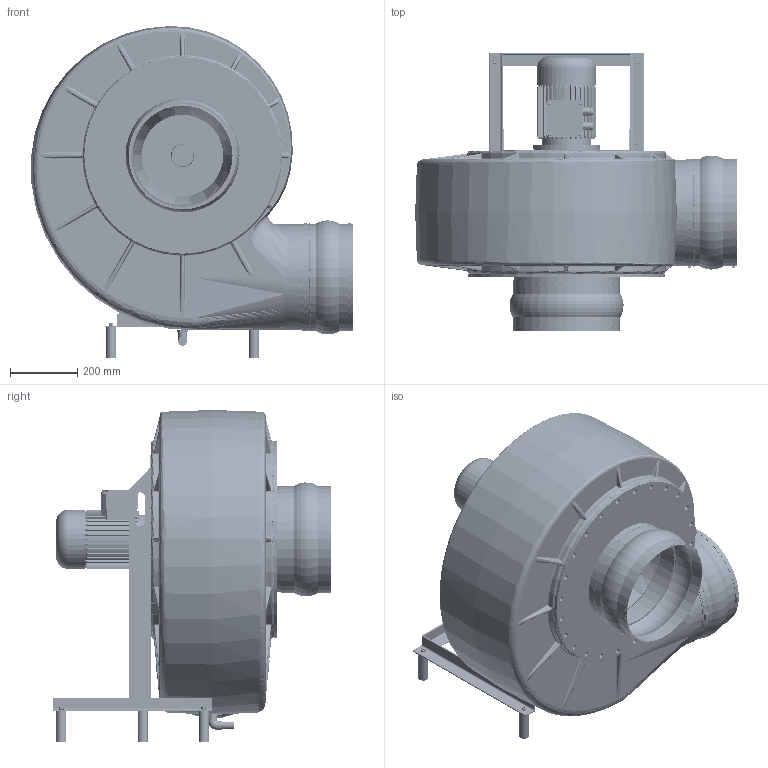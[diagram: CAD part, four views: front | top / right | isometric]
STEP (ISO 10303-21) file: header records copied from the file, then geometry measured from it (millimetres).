
FILE_DESCRIPTION( ( 'Unknown' ), '1' );
FILE_NAME( 'K:/HOME/HLT_CAD/Z/HF/3D/Zusammenstellung/HFR/HFR 15_17/HFR...-15D/DS_1/HFR_315-15D/GR270/HFR_315-15D_DS1_GR_270_090.stp', 'Unknown', ( 'Unknown' ), ( 'Unknown' ), 'PSStep 14.0', 'Unknown', ' ' );
FILE_SCHEMA( ( 'AUTOMOTIVE_DESIGN { 1 0 10303 214 1 1 1 1 }' ) );
Length unit declared in the file: millimetre
Products named in the file (33): HFR 315_GR; Ensat-Buchse-M8; 5217_Laufradbefestigung; 5217_Drehteil; 5217_Flachdichtung_Ø32; 5217_Schraubkappe; 5217_Flachdichtung_Ø63; 5158_Gehäusedeckel_315; 5158_Rohr; GD_FL 315; 315; 5158_Rohr_250; 5159_Kondensatablauf_125-315; Winkel_90°_G1_2; Stopfen_G1_2-oa5; Rohr_20; Verschlusskappe_20; 6203_Kugelmanschette; 6203_Manschettenband_HFR315; 6203_Schelle_HFR315; 5326_Gestell_HFR_315_15_D_DS1-oa4; 360-oa0; Angle 40x40x4-oa1; Angle 40x40x4-oa2; Angle 40x40x4-oa3; Assem1; Laufrad 315_GR; 6611_Motorring_Bg80; Schwidä_30x30; 6kant_M8; Adapter_250-315_270\X2\00B\X0\; B5_90L_2HIHI
Assembly tree (99 placements, depth 3):
  Assem1
    Laufrad 315_GR
    6611_Motorring_Bg80
    Schwidä_30x30  x4
    6kant_M8  x4
    Adapter_250-315_270\X2\00B\X0\  x4
    B5_90L_2HIHI
    5326_Gestell_HFR_315_15_D_DS1-oa4
      360-oa0
      Angle 40x40x4-oa1
      Angle 40x40x4-oa2
      Angle 40x40x4-oa3
    HFR 315_GR
      HFR 315_GR
      Ensat-Buchse-M8  x56
    5158_Gehäusedeckel_315
      5158_Rohr
      GD_FL 315
      315  x2
      5158_Rohr_250
    5159_Kondensatablauf_125-315
      Winkel_90°_G1_2
      Stopfen_G1_2-oa5
      Rohr_20
      Verschlusskappe_20
    6203_Kugelmanschette  x2
      6203_Manschettenband_HFR315
      6203_Schelle_HFR315
    5217_Laufradbefestigung
      5217_Drehteil
      5217_Flachdichtung_Ø32
      5217_Schraubkappe
      5217_Flachdichtung_Ø63
Bounding box: 955.86 x 827 x 986.81 mm (x, y, z)
Volume: 15721380.4 mm3; surface area: 7910213.6 mm2
Topology: 94 solids, 96 shells, 3341 faces, 7017 edges, 4375 vertices
Faces by surface type: plane 1417, cylinder 1113, bspline 362, torus 223, cone 134, sphere 48, offset 36, revolution 8
Full cylindrical faces by diameter (mm): 6.647 x65, 8 x14, 9 x2, 10 x4, 10.5 x1, 11 x8, 12 x229, 13 x233, 14 x4, 15 x28, 16 x6, 17 x49, 20 x4, 20.955 x1, 22.212 x1, 23 x1, 24 x5, 25 x1, 26.5 x2, 28.8 x1, 30 x8, 30.291 x1, 32 x1, 33.25 x1, 37 x1, 40 x1, 44 x1, 46 x1, 50 x1, 52 x1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
Entity records: 180928 total; most frequent: CARTESIAN_POINT 103207, DIRECTION 11493, ORIENTED_EDGE 10368, EDGE_CURVE 5184, AXIS2_PLACEMENT_3D 4890, EDGE_LOOP 3791, VERTEX_POINT 3506, FACE_OUTER_BOUND 3252
